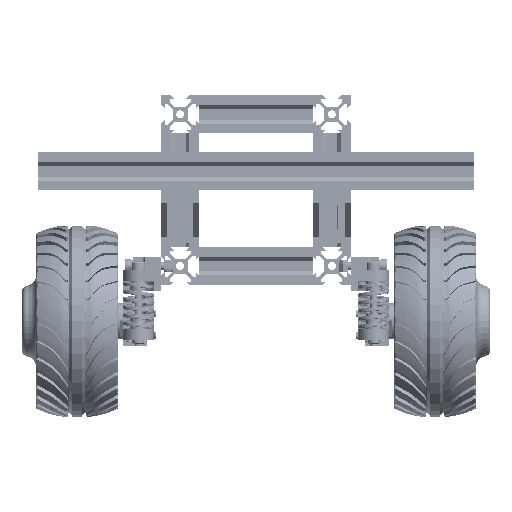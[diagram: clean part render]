
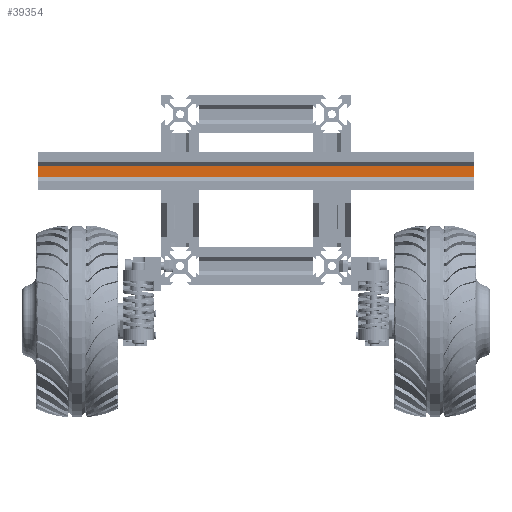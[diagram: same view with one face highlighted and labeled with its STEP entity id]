
A CAD part, front view. The second image highlights one B-rep face of the part: STEP entity #39354.
In plain terms, the highlighted planar face has unit normal (0, -1, 0) as drawn and (1, 0, 0) by its records, which use the part's own axes.
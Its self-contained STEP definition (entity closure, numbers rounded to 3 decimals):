
#5393=PLANE('',#42428);
#7615=FACE_OUTER_BOUND('',#10034,.T.);
#10034=EDGE_LOOP('',(#36597,#36598,#36599,#36600));
#11890=LINE('',#196012,#13870);
#11956=LINE('',#196146,#13936);
#11958=LINE('',#196150,#13938);
#11959=LINE('',#196151,#13939);
#13870=VECTOR('',#49944,10.);
#13936=VECTOR('',#50042,10.);
#13938=VECTOR('',#50046,10.);
#13939=VECTOR('',#50047,10.);
#19074=VERTEX_POINT('',#196009);
#19075=VERTEX_POINT('',#196011);
#19127=VERTEX_POINT('',#196145);
#19128=VERTEX_POINT('',#196149);
#24906=EDGE_CURVE('',#19075,#19074,#11890,.T.);
#24973=EDGE_CURVE('',#19127,#19075,#11956,.T.);
#24975=EDGE_CURVE('',#19128,#19074,#11958,.T.);
#24976=EDGE_CURVE('',#19128,#19127,#11959,.T.);
#36597=ORIENTED_EDGE('',*,*,#24906,.T.);
#36598=ORIENTED_EDGE('',*,*,#24975,.F.);
#36599=ORIENTED_EDGE('',*,*,#24976,.T.);
#36600=ORIENTED_EDGE('',*,*,#24973,.T.);
#39354=ADVANCED_FACE('',(#7615),#5393,.T.);
#42428=AXIS2_PLACEMENT_3D('',#196148,#50044,#50045);
#49944=DIRECTION('',(0.,0.,1.));
#50042=DIRECTION('',(0.,1.,0.));
#50044=DIRECTION('center_axis',(1.,0.,0.));
#50045=DIRECTION('ref_axis',(0.,0.,-1.));
#50046=DIRECTION('',(0.,1.,0.));
#50047=DIRECTION('',(0.,0.,-1.));
#196009=CARTESIAN_POINT('',(3.901,430.,2.84));
#196011=CARTESIAN_POINT('',(3.901,430.,-2.84));
#196012=CARTESIAN_POINT('',(3.901,430.,1.736));
#196145=CARTESIAN_POINT('',(3.901,200.,-2.84));
#196146=CARTESIAN_POINT('',(3.901,0.,-2.84));
#196148=CARTESIAN_POINT('Origin',(3.901,0.,2.84));
#196149=CARTESIAN_POINT('',(3.901,200.,2.84));
#196150=CARTESIAN_POINT('',(3.901,0.,2.84));
#196151=CARTESIAN_POINT('',(3.901,200.,0.146));
